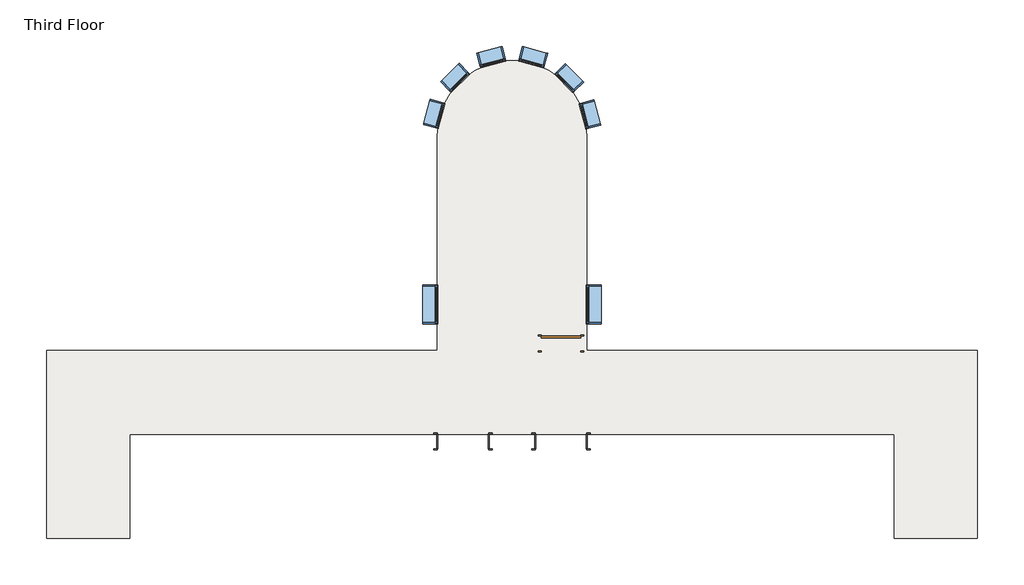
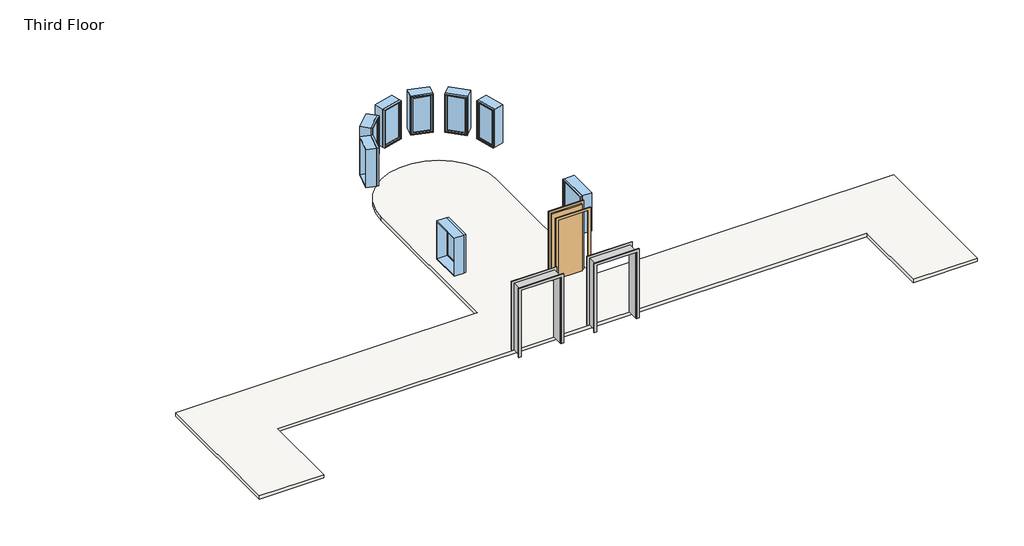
# One storey: 8 windows, 2 proxies, 1 door, 1 slab.
"""IFC4 building model written with IfcOpenShell, lengths in millimetres."""

from ifc_helpers import new_model, si_unit, point, frame, frame_2d, origin, place, context, project, spatial, polyline, circle_curve, trimmed, segment, composite_curve, outline, extrude, transform, mapped, element, save
from components import proxy_c3589814, door_632be17d, window_60baf983, window_15c49d37

model = new_model("IFC4")

# Units and contexts
model_context = context("Model", 3, world=origin())
ifc_project = project(units=[si_unit("LENGTHUNIT", "METRE", prefix="MILLI")], contexts=[model_context])

# Site, building, storey
site = spatial("IfcSite", under=ifc_project)
building = spatial("IfcBuilding", under=site)
storey = spatial("IfcBuildingStorey", under=building, Name="Third Floor", Elevation=6096.0)

# Proxies
placement = place(None, origin())
proxy_shape = proxy_c3589814(model_context)
element("IfcBuildingElementProxy", 1, Name="Opening-Cased : 48\" x 84\"", ObjectType="Opening-Cased : 48\" x 84\"", at=placement, inside=storey, context=model_context, shape_type="MappedRepresentation", body=[
    mapped(proxy_shape, transform((-7396.8036255, 2429.9758812, 6096.0), x_axis=(-1.0, 0.0, 0.0), y_axis=(0.0, -1.0, 0.0), z_axis=(0.0, 0.0, 1.0))),
])
element("IfcBuildingElementProxy", 2, Name="Opening-Cased : 48\" x 84\"", ObjectType="Opening-Cased : 48\" x 84\"", at=placement, inside=storey, context=model_context, shape_type="MappedRepresentation", body=[
    mapped(proxy_shape, transform((-5110.8036255, 2429.9758812, 6096.0), x_axis=(-1.0, 0.0, 0.0), y_axis=(0.0, -1.0, 0.0), z_axis=(0.0, 0.0, 1.0))),
])

# Door
door_shape = door_632be17d(model_context)
element("IfcDoor", 3, ObjectType="Single-Flush : 36\" x 84\"", at=placement, inside=storey, context=model_context, shape_type="MappedRepresentation", body=[
    mapped(door_shape, transform((-5102.6149687, 4715.9758812, 6096.0), x_axis=(1.0, 0.0, 0.0), y_axis=(0.0, 1.0, 0.0), z_axis=(0.0, 0.0, 1.0))),
])

# Slab
element("IfcSlab", 4, ObjectType="LW Concrete on Metal Deck", at=placement, inside=storey, context=model_context, shape_type="SweptSolid", body=[
    extrude(outline(composite_curve([segment(polyline([(-4504.1274687, 9592.7758812), (-4504.1274687, 4552.4633812), (4627.1725313, 4552.4633812), (4627.1725313, 167.7883812), (2680.8975313, 167.7883812), (2680.8975313, 2593.4883812), (-15172.1274687, 2593.4883812), (-15172.1274687, 167.7883812), (-17118.4024687, 167.7883812), (-17118.4024687, 4552.4633812), (-7987.1024687, 4552.4633812), (-7987.1024687, 9592.7758812)]), True, "CONTINUOUS"), segment(trimmed(circle_curve(frame_2d((-6245.6149687, 9592.7758812)), 1741.4875), [point((-7987.1024687, 9592.7758812))], [point((-4504.1274687, 9592.7758812))], False, "CARTESIAN"), True, "CONTINUOUS")], self_intersect=False)), frame((0.0, 0.0, 5991.225), z_axis=(0.0, 0.0, 1.0), x_axis=(1.0, 0.0, 0.0)), (0.0, 0.0, 1.0), 104.775),
])

# Windows
window_shape = window_60baf983(model_context)
element("IfcWindow", 5, ObjectType="Fixed : 24\" x 48\"", at=placement, inside=storey, context=model_context, shape_type="MappedRepresentation", body=[
    mapped(window_shape, transform((-8072.5076754, 10048.7859441, 6096.0), x_axis=(-0.2617614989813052, -0.9651325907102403, 0.0), y_axis=(0.9651325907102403, -0.2617614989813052, 0.0), z_axis=(0.0, 0.0, 1.0))),
])
element("IfcWindow", 6, ObjectType="Fixed : 24\" x 48\"", at=placement, inside=storey, context=model_context, shape_type="MappedRepresentation", body=[
    mapped(window_shape, transform((-7599.7454312, 10901.1385333, 6096.0), x_axis=(-0.7092584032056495, -0.7049485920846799, 0.0), y_axis=(0.7049485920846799, -0.7092584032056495, 0.0), z_axis=(0.0, 0.0, 1.0))),
])
element("IfcWindow", 7, ObjectType="Fixed : 24\" x 48\"", at=placement, inside=storey, context=model_context, shape_type="MappedRepresentation", body=[
    mapped(window_shape, transform((-6764.1450232, 11402.9164066, 6096.0), x_axis=(-0.96671009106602, -0.25587418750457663, 0.0), y_axis=(0.25587418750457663, -0.96671009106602, 0.0), z_axis=(0.0, 0.0, 1.0))),
])
element("IfcWindow", 8, ObjectType="Fixed : 24\" x 48\"", at=placement, inside=storey, context=model_context, shape_type="MappedRepresentation", body=[
    mapped(window_shape, transform((-5789.6049059, 11419.6685878, 6096.0), x_axis=(-0.9651325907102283, 0.2617614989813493, 0.0), y_axis=(-0.2617614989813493, -0.9651325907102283, 0.0), z_axis=(0.0, 0.0, 1.0))),
])
element("IfcWindow", 9, ObjectType="Fixed : 24\" x 48\"", at=placement, inside=storey, context=model_context, shape_type="MappedRepresentation", body=[
    mapped(window_shape, transform((-4937.2523166, 10946.9063437, 6096.0), x_axis=(-0.7049485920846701, 0.7092584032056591, 0.0), y_axis=(-0.7092584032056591, -0.7049485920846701, 0.0), z_axis=(0.0, 0.0, 1.0))),
])
element("IfcWindow", 10, ObjectType="Fixed : 24\" x 48\"", at=placement, inside=storey, context=model_context, shape_type="MappedRepresentation", body=[
    mapped(window_shape, transform((-4435.4744434, 10111.3059357, 6096.0), x_axis=(-0.25587418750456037, 0.9667100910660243, 0.0), y_axis=(-0.9667100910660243, -0.25587418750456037, 0.0), z_axis=(0.0, 0.0, 1.0))),
])
window_2_shape = window_15c49d37(model_context)
element("IfcWindow", 11, ObjectType="Fixed : 36\" x 48\"", at=placement, inside=storey, context=model_context, shape_type="MappedRepresentation", body=[
    mapped(window_2_shape, transform((-8150.6149687, 5592.2758812, 6096.0), x_axis=(0.0, -1.0, 0.0), y_axis=(1.0, 0.0, 0.0), z_axis=(0.0, 0.0, 1.0))),
])
element("IfcWindow", 12, ObjectType="Fixed : 36\" x 48\"", at=placement, inside=storey, context=model_context, shape_type="MappedRepresentation", body=[
    mapped(window_2_shape, transform((-4340.6149687, 5668.4758812, 6096.0), x_axis=(0.0, 1.0, 0.0), y_axis=(-1.0, 0.0, 0.0), z_axis=(0.0, 0.0, 1.0))),
])

save(model, "model.ifc")
